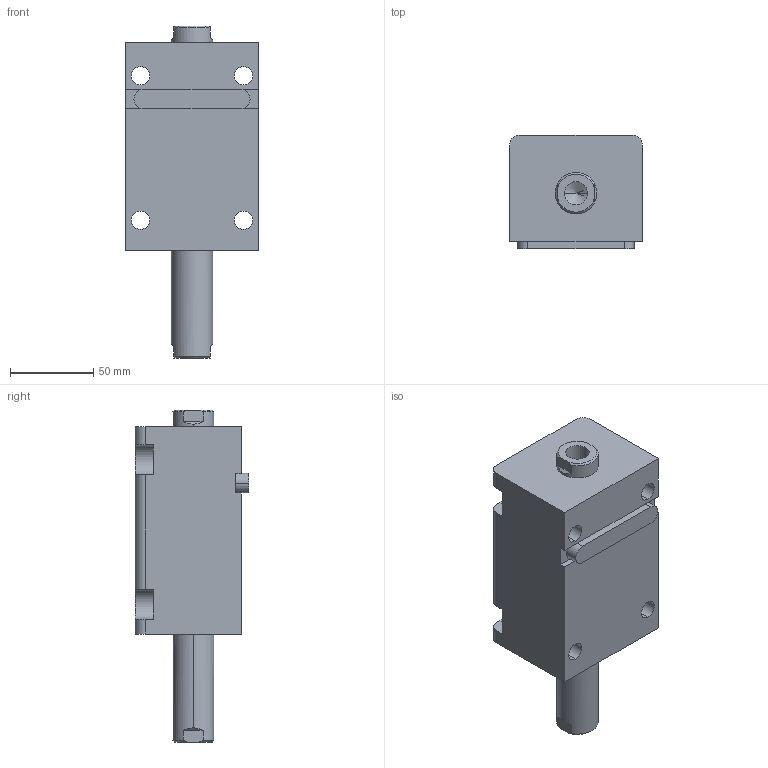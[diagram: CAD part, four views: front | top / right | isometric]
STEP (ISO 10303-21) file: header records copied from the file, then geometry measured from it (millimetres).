
FILE_DESCRIPTION (( 'STEP AP203' ), '1' );
FILE_NAME ('HTB-LW40-55N.STEP', '2019-10-09T07:56:26', ( '微软用户' ), ( '微软中国' ), 'SwSTEP 2.0', 'SolidWorks 2012', '' );
FILE_SCHEMA (( 'CONFIG_CONTROL_DESIGN' ));
Length unit declared in the file: millimetre
Products named in the file (4): HTB-LW40-55掛极; HTB-LW40-55N活塞杆; HTB-LA40-瑩; HTB-LW40-55N
Assembly tree (3 placements, depth 2):
  HTB-LW40-55N
    HTB-LW40-55掛极
    HTB-LW40-55N活塞杆
    HTB-LA40-瑩
Bounding box: 80 x 68.5 x 200 mm (x, y, z)
Volume: 593735.6 mm3; surface area: 92105.7 mm2
Topology: 3 solids, 3 shells, 105 faces, 261 edges, 168 vertices
Faces by surface type: plane 44, cylinder 41, cone 12, torus 8
Entity records: 3567 total; most frequent: CARTESIAN_POINT 588, DIRECTION 573, ORIENTED_EDGE 514, EDGE_CURVE 257, AXIS2_PLACEMENT_3D 221, VERTEX_POINT 168, LINE 131, VECTOR 131
